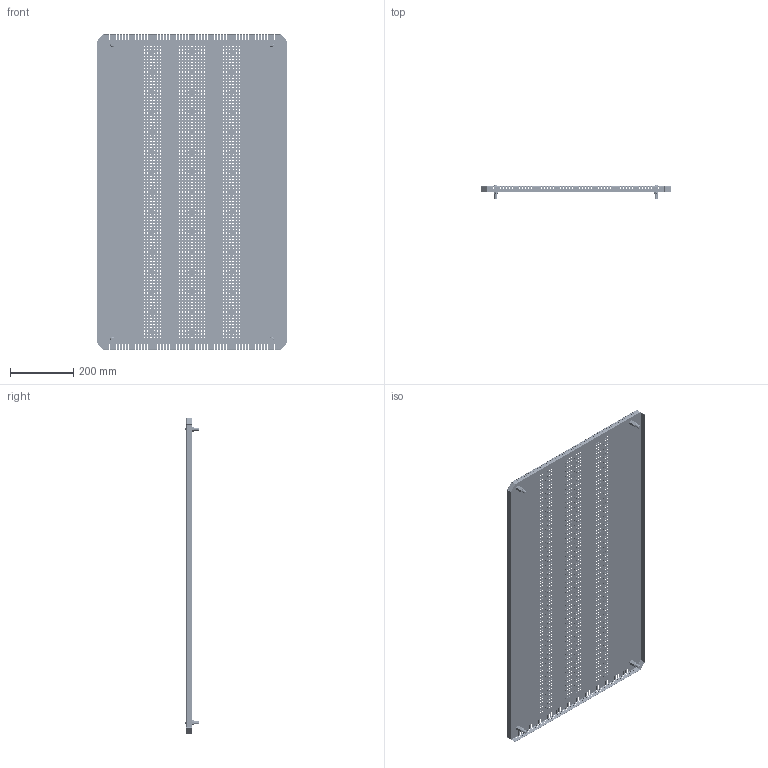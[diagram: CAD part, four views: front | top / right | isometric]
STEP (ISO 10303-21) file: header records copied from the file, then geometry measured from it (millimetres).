
FILE_DESCRIPTION (( 'STEP AP203' ), '1' );
FILE_NAME ('R 60.100 IP Ïàíåëü òåëåêîììóíèêàöèîííàÿ ïîòîëî÷íàÿ ñ ïåðôîðàöèåé.STEP', '2013-01-12T08:56:16', ( 'System' ), ( '' ), 'SwSTEP 2.0', 'SolidWorks 2012', '' );
FILE_SCHEMA (( 'CONFIG_CONTROL_DESIGN' ));
Products named in the file (1): R 60.100 IP Ïàíåëü òåëåêîììóíèêàöèîííàÿ ïîòîëî÷íàÿ ñ ïåðôîðàöèåé
Bounding box: 600 x 42.72 x 1000 mm (x, y, z)
Volume: 760541.6 mm3; surface area: 1286272.2 mm2
Topology: 5 solids, 9 shells, 5260 faces, 15350 edges, 9900 vertices
Faces by surface type: cylinder 4174, plane 990, cone 56, bspline 16, torus 16, sphere 8
Entity records: 186751 total; most frequent: DIRECTION 34158, CARTESIAN_POINT 31891, ORIENTED_EDGE 30668, EDGE_CURVE 15334, AXIS2_PLACEMENT_3D 13697, VERTEX_POINT 9900, EDGE_LOOP 9194, CIRCLE 8452
